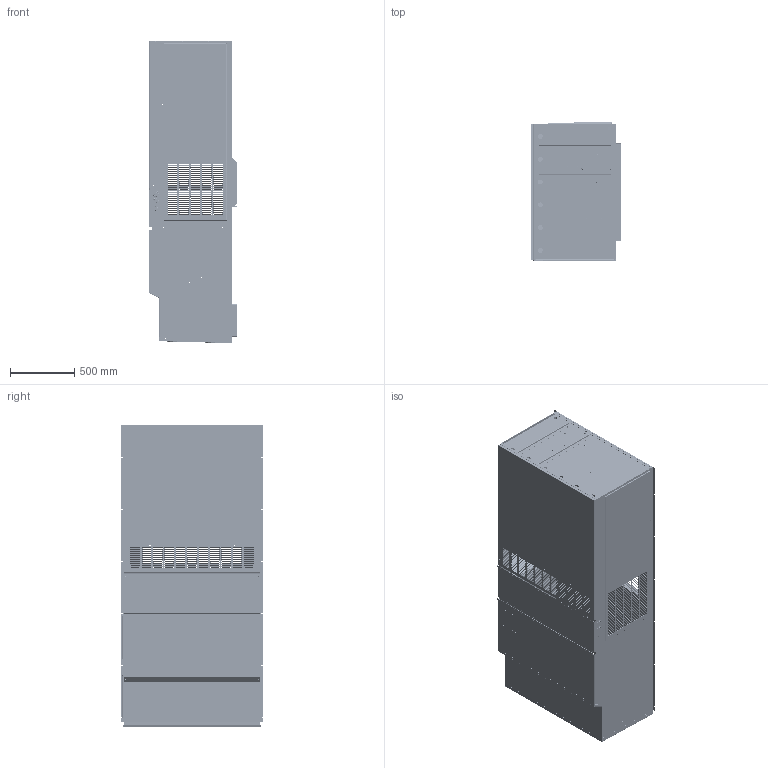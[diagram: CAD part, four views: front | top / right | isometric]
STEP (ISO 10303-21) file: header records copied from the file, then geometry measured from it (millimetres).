
FILE_DESCRIPTION (( 'STEP AP214' ), '1' );
FILE_NAME ('C48-60HY Recessed.STEP', '2023-03-21T11:53:58', ( '' ), ( '' ), 'SwSTEP 2.0', 'SolidWorks 2022', '' );
FILE_SCHEMA (( 'AUTOMOTIVE_DESIGN' ));
Length unit declared in the file: inch
Products named in the file (30): 164-608; 108-414; 112-764; 118-127; 126-616_Alt Punching Method; 102-542; 132-301; 5451-018; C48-60HY Recessed; 140-356; 152-724; 1171-070; 142-221; 108-413; 112-763; 113X957; 142-248; 114-357; 111-299_NO HEATER BRACKETS; 106-413; 100-1145; 112-762; 114-356; 118-128; 110-298; 100-1144; 112-957; toggle lock; 1012-221, hex flange nut; 527-616
Assembly tree (56 placements, depth 3):
  C48-60HY Recessed
    527-616
      126-616_Alt Punching Method
      102-542  x2
      140-356
      5451-018  x4
      1012-221, hex flange nut  x8
      112-762
    100-1144
    100-1145
    142-221
    114-356
    114-357
    142-248
    112-957
    113X957
    1171-070  x8
    106-413
    132-301
    164-608
    118-127
    108-414
    108-413
    118-128  x2
    111-299_NO HEATER BRACKETS
      110-298  x2
      112-763
      112-764
      toggle lock  x8
    152-724
Bounding box: 698.29 x 1111.92 x 2359.42 mm (x, y, z)
Volume: 9878834.6 mm3; surface area: 21526091.7 mm2
Topology: 326 solids, 326 shells, 10402 faces, 26515 edges, 16798 vertices
Faces by surface type: plane 5661, cylinder 3275, torus 744, cone 536, bspline 170, sphere 16
Entity records: 219786 total; most frequent: CARTESIAN_POINT 41198, DIRECTION 37789, ORIENTED_EDGE 35510, EDGE_CURVE 17755, AXIS2_PLACEMENT_3D 13342, VERTEX_POINT 11202, LINE 11105, VECTOR 11105
